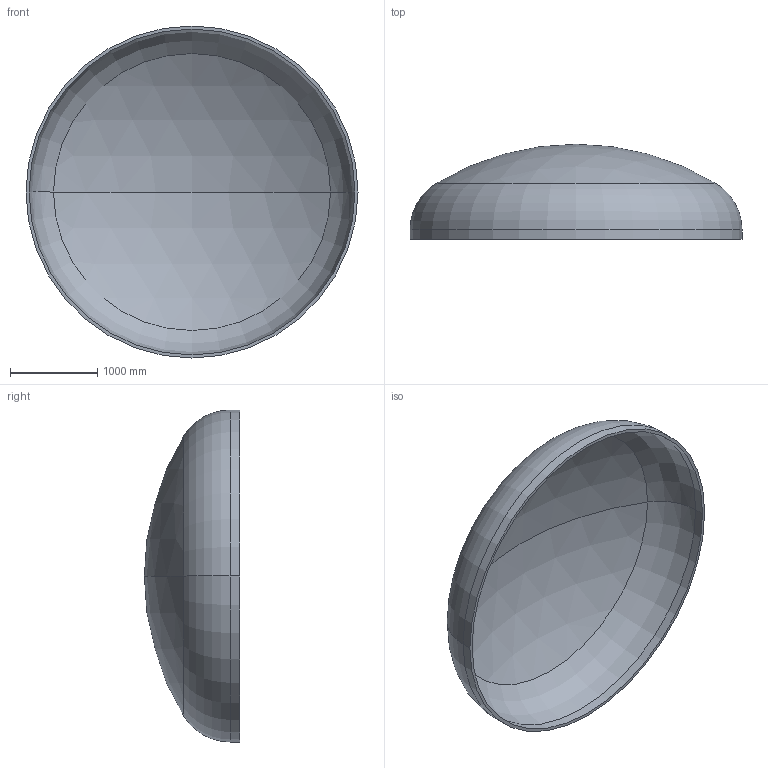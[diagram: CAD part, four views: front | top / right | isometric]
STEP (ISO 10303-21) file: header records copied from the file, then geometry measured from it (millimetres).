
FILE_DESCRIPTION (( 'STEP AP203' ), '1' );
FILE_NAME ('DIN 28013 Korbbogenform_-_Boden DIN 28013 - 3800 x 110 - I - s=35.step', '2016-07-01T21:19:07', ( '' ), ( '' ), 'SwSTEP 2.0', 'SolidWorks 2013', '' );
FILE_SCHEMA (( 'CONFIG_CONTROL_DESIGN' ));
Length unit declared in the file: millimetre
Products named in the file (1): DIN 28013 Korbbogenform_-_Boden DIN 28013 - 3800 x 110 - I - s=35
Bounding box: 3800 x 1090.1 x 3800 mm (x, y, z)
Volume: 588603446.5 mm3; surface area: 34051019.2 mm2
Topology: 1 solids, 1 shells, 13 faces, 24 edges, 14 vertices
Faces by surface type: torus 4, cylinder 4, sphere 4, plane 1
Entity records: 407 total; most frequent: DIRECTION 72, CARTESIAN_POINT 52, ORIENTED_EDGE 48, AXIS2_PLACEMENT_3D 34, EDGE_CURVE 24, CIRCLE 20, VERTEX_POINT 14, EDGE_LOOP 14
